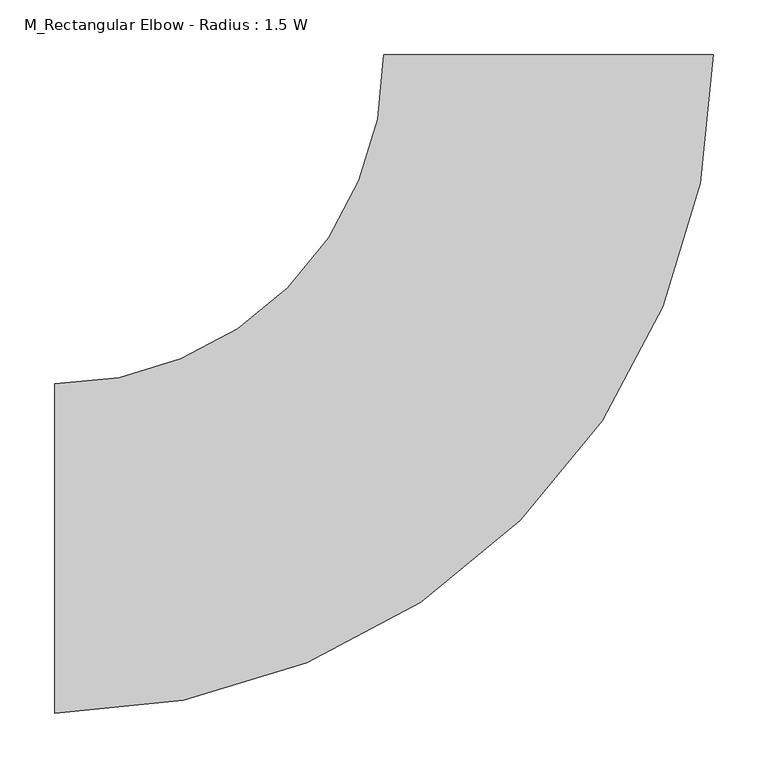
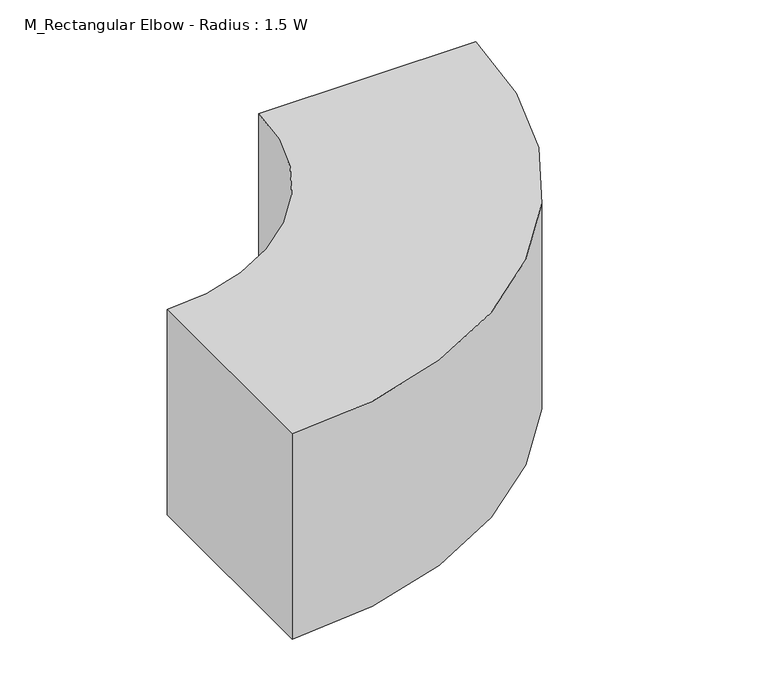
"""IFC4 building model written with IfcOpenShell, lengths in millimetres: duct fitting geometry, M_Rectangular Elbow - Radius : 1.5 W."""

import ifcopenshell
import ifcopenshell.guid

model = None  # the IFC model being written
_history = None  # IfcOwnerHistory: only IFC2X3 demands one
_inside = {}  # id of a spatial element -> (the spatial element, [elements in it])
_under = {}  # id of a project, library or spatial element -> (it, [spatial elements below it])
_declared = {}  # id of a project -> (the project, [libraries it declares])
_typed = {}  # id of a type object -> (the type object, [elements of that type])
_made_of = {}  # id of a material, layer set ... -> (it, [elements and type objects made of it])


def new_model(schema):
    """Start an empty IFC model of exactly this schema.

    Asked for "IFC4X3", IfcOpenShell would pick the latest addendum, in which some entities
    have other attributes; the version numbers below select the first issue.
    IFC2X3 requires an IfcOwnerHistory on every rooted entity: one is made here for all.
    """
    global model, _history
    if schema == "IFC4X3":
        model = ifcopenshell.file(schema_version=(4, 3, 0, 0))
    else:
        model = ifcopenshell.file(schema=schema)
    _inside.clear()
    _under.clear()
    _declared.clear()
    _typed.clear()
    _made_of.clear()
    _history = None
    if model.schema == "IFC2X3":
        org = make("IfcOrganization", Name="unknown")
        user = make(
            "IfcPersonAndOrganization",
            ThePerson=make("IfcPerson", FamilyName="unknown"),
            TheOrganization=org,
        )
        app = make(
            "IfcApplication",
            ApplicationDeveloper=org,
            Version="unknown",
            ApplicationFullName="unknown",
            ApplicationIdentifier="unknown",
        )
        _history = make(
            "IfcOwnerHistory",
            OwningUser=user,
            OwningApplication=app,
            ChangeAction="ADDED",
            CreationDate=0,
        )
    return model


def make(cls, **values):
    """One entity of the class cls with the attributes given. An attribute that is None is left unset."""
    return model.create_entity(
        cls, **{name: value for name, value in values.items() if value is not None}
    )


def rooted(cls, **values):
    """An entity with a GlobalId (a new one), such as an element, a storey or a relation."""
    return make(cls, GlobalId=ifcopenshell.guid.new(), OwnerHistory=_history, **values)


def si_unit(unit_type, name, prefix=None):
    """IfcSIUnit, for example si_unit("LENGTHUNIT", "METRE", prefix="MILLI")."""
    return make("IfcSIUnit", UnitType=unit_type, Prefix=prefix, Name=name)


def assignment(units):
    """IfcUnitAssignment: the units of a project."""
    return None if units is None else make("IfcUnitAssignment", Units=units)


def point(xyz):
    """IfcCartesianPoint."""
    return None if xyz is None else make("IfcCartesianPoint", Coordinates=xyz)


def direction(xyz):
    """IfcDirection."""
    return None if xyz is None else make("IfcDirection", DirectionRatios=xyz)


def frame(location, z_axis=None, x_axis=None):
    """IfcAxis2Placement3D, a coordinate frame: its origin and axes. An axis left out is left unset."""
    return make(
        "IfcAxis2Placement3D",
        Location=point(location),
        Axis=direction(z_axis),
        RefDirection=direction(x_axis),
    )


def frame_2d(location, x_axis=None):
    """IfcAxis2Placement2D, a coordinate frame in the plane: its origin and x axis."""
    return make(
        "IfcAxis2Placement2D", Location=point(location), RefDirection=direction(x_axis)
    )


def origin():
    """The frame at (0, 0, 0) with its axes left unset."""
    return frame((0.0, 0.0, 0.0))


def place(relative_to, where):
    """IfcLocalPlacement: puts the frame where relative to a parent placement (None: the world)."""
    return make(
        "IfcLocalPlacement", PlacementRelTo=relative_to, RelativePlacement=where
    )


def context(
    kind, dimensions, precision=None, world=None, true_north=None, identifier=None
):
    """IfcGeometricRepresentationContext, for example the 3D "Model" context."""
    return make(
        "IfcGeometricRepresentationContext",
        ContextIdentifier=identifier,
        ContextType=kind,
        CoordinateSpaceDimension=dimensions,
        Precision=precision,
        WorldCoordinateSystem=world,
        TrueNorth=true_north,
    )


def project(units=None, contexts=None):
    """IfcProject with its units and contexts."""
    return rooted(
        "IfcProject",
        Name="project",
        RepresentationContexts=contexts,
        UnitsInContext=assignment(units),
    )


def spatial(cls, under=None, at=None, **own):
    """A site, building, storey or space (cls), placed at a placement, below another one or the project."""
    s = rooted(cls, ObjectPlacement=at, **own)
    if under is not None:
        _under.setdefault(under.id(), (under, []))[1].append(s)
    return s


def polyline(points):
    """IfcPolyline through the points."""
    return make("IfcPolyline", Points=[point(p) for p in points])


def circle_curve(where, radius):
    """IfcCircle in the frame where."""
    return make("IfcCircle", Position=where, Radius=radius)


def trimmed(basis, trim1, trim2, sense, master):
    """IfcTrimmedCurve: the piece of a basis curve between two trims."""
    return make(
        "IfcTrimmedCurve",
        BasisCurve=basis,
        Trim1=trim1,
        Trim2=trim2,
        SenseAgreement=sense,
        MasterRepresentation=master,
    )


def segment(curve, same_sense, transition):
    """IfcCompositeCurveSegment."""
    return make(
        "IfcCompositeCurveSegment",
        Transition=transition,
        SameSense=same_sense,
        ParentCurve=curve,
    )


def composite_curve(segments, self_intersect=None):
    """IfcCompositeCurve: segments joined end to end."""
    return make("IfcCompositeCurve", Segments=segments, SelfIntersect=self_intersect)


def outline(outer, holes=None, kind="AREA"):
    """IfcArbitraryClosedProfileDef: a profile drawn as a closed curve; with holes, ...WithVoids."""
    if holes is None:
        return make("IfcArbitraryClosedProfileDef", ProfileType=kind, OuterCurve=outer)
    return make(
        "IfcArbitraryProfileDefWithVoids",
        ProfileType=kind,
        OuterCurve=outer,
        InnerCurves=holes,
    )


def extrude(swept, where, along, depth):
    """IfcExtrudedAreaSolid: the profile swept, set in the frame where, extruded along a direction by depth."""
    return make(
        "IfcExtrudedAreaSolid",
        SweptArea=swept,
        Position=where,
        ExtrudedDirection=direction(along),
        Depth=depth,
    )


def shape(context_of_items, identifier, shape_type, items):
    """IfcShapeRepresentation: the items that make up one representation, for example the "Body"."""
    return make(
        "IfcShapeRepresentation",
        ContextOfItems=context_of_items,
        RepresentationIdentifier=identifier,
        RepresentationType=shape_type,
        Items=items,
    )


def source(mapping_origin, context_of_items, identifier, shape_type, items):
    """IfcRepresentationMap: a shape defined once, which mapped items show again and again."""
    return make(
        "IfcRepresentationMap",
        MappingOrigin=mapping_origin,
        MappedRepresentation=shape(context_of_items, identifier, shape_type, items),
    )


def transform(
    local_origin,
    x_axis=None,
    y_axis=None,
    z_axis=None,
    scale=None,
    scale2=None,
    scale3=None,
    uniform=True,
):
    """IfcCartesianTransformationOperator3D, or its non-uniform kind. x_axis, y_axis, z_axis: its Axis1, 2, 3."""
    if uniform:
        return make(
            "IfcCartesianTransformationOperator3D",
            Axis1=direction(x_axis),
            Axis2=direction(y_axis),
            LocalOrigin=point(local_origin),
            Scale=scale,
            Axis3=direction(z_axis),
        )
    return make(
        "IfcCartesianTransformationOperator3DnonUniform",
        Axis1=direction(x_axis),
        Axis2=direction(y_axis),
        LocalOrigin=point(local_origin),
        Scale=scale,
        Axis3=direction(z_axis),
        Scale2=scale2,
        Scale3=scale3,
    )


def mapped(mapping_source, mapping_target):
    """IfcMappedItem: shows the shape of a source again, moved by a transform."""
    return make(
        "IfcMappedItem", MappingSource=mapping_source, MappingTarget=mapping_target
    )


def made_of(thing, what):
    """Note that an element or type object is made of a material, layer set ...; save() writes the relation."""
    if what is not None:
        _made_of.setdefault(what.id(), (what, []))[1].append(thing)
    return thing


def element(
    cls,
    number,
    at=None,
    inside=None,
    cuts=None,
    type_object=None,
    material=None,
    context=None,
    identifier="Body",
    shape_type=None,
    held_by="IfcProductDefinitionShape",
    body=None,
    shapes=None,
    **own,
):
    """One element of the class cls, such as IfcWall. Its Tag is "e" and its number.

    at: its placement. inside: the storey or other place that contains it. cuts: it is an
    opening in that element (IfcRelVoidsElement). A single representation is given by context,
    identifier, shape_type and body (its items); several are given by shapes. held_by: the class
    of the entity that holds the representations. save() writes the other relations.
    """
    e = rooted(cls, Tag="e%d" % number, ObjectPlacement=at, **own)
    if body is not None:
        shapes = [shape(context, identifier, shape_type, body)]
    if shapes is not None:
        e.Representation = make(held_by, Representations=shapes)
    if inside is not None:
        _inside.setdefault(inside.id(), (inside, []))[1].append(e)
    if cuts is not None:
        rooted(
            "IfcRelVoidsElement", RelatingBuildingElement=cuts, RelatedOpeningElement=e
        )
    if type_object is not None:
        _typed.setdefault(type_object.id(), (type_object, []))[1].append(e)
    return made_of(e, material)


def aggregate(whole, parts):
    """IfcRelAggregates: a whole, such as a stair, and the parts it consists of."""
    return rooted("IfcRelAggregates", RelatingObject=whole, RelatedObjects=parts)


def save(model, path):
    """Write the relations noted so far, then the file.

    IfcRelAggregates (storeys below a building ...), IfcRelContainedInSpatialStructure (elements
    in a storey), IfcRelDefinesByType, IfcRelAssociatesMaterial and IfcRelDeclares: one each for
    every whole, place, type object, material and project.
    """
    for whole, parts in _under.values():
        aggregate(whole, parts)
    for where, things in _inside.values():
        rooted(
            "IfcRelContainedInSpatialStructure",
            RelatedElements=things,
            RelatingStructure=where,
        )
    for kind, things in _typed.values():
        rooted("IfcRelDefinesByType", RelatedObjects=things, RelatingType=kind)
    for what, things in _made_of.values():
        rooted("IfcRelAssociatesMaterial", RelatedObjects=things, RelatingMaterial=what)
    for by, libraries in _declared.values():
        rooted("IfcRelDeclares", RelatingContext=by, RelatedDefinitions=libraries)
    model.write(path)


def m_rectangular_elbow_radius_1_5_w_7230ff9a(model_context):
    return source(origin(), model_context, "Body", "SweptSolid", [
        extrude(outline(composite_curve([segment(trimmed(circle_curve(frame_2d((-450.0, 450.0)), 600.0), [point((150.0, 450.0))], [point((-450.0, -150.0))], False, "CARTESIAN"), True, "CONTINUOUS"), segment(polyline([(-450.0, -150.0), (-450.0, 150.0)]), True, "CONTINUOUS"), segment(trimmed(circle_curve(frame_2d((-450.0, 450.0)), 300.0), [point((-450.0, 150.0))], [point((-150.0, 450.0))], True, "CARTESIAN"), True, "CONTINUOUS"), segment(polyline([(-150.0, 450.0), (150.0, 450.0)]), True, "CONTINUOUS")], self_intersect=False)), frame((0.0, 0.0, -150.0), z_axis=(0.0, 0.0, 1.0), x_axis=(1.0, 0.0, 0.0)), (0.0, 0.0, 1.0), 300.0),
    ])


if __name__ == "__main__":
    model = new_model("IFC4")
    model_context = context("Model", 3, world=origin())
    ifc_project = project(units=[si_unit("LENGTHUNIT", "METRE", prefix="MILLI")], contexts=[model_context])
    site = spatial("IfcSite", under=ifc_project)
    building = spatial("IfcBuilding", under=site)
    placement = place(None, origin())
    m_rectangular_elbow_radius_1_5_w_shape = m_rectangular_elbow_radius_1_5_w_7230ff9a(model_context)
    element("IfcDuctFitting", 1, ObjectType="M_Rectangular Elbow - Radius : 1.5 W", at=placement, inside=building, context=model_context, shape_type="MappedRepresentation", body=[
        mapped(m_rectangular_elbow_radius_1_5_w_shape, transform((0.0, 0.0, 0.0), x_axis=(1.0, 0.0, 0.0), y_axis=(0.0, 1.0, 0.0), z_axis=(0.0, 0.0, 1.0))),
    ])
    save(model, "model.ifc")
